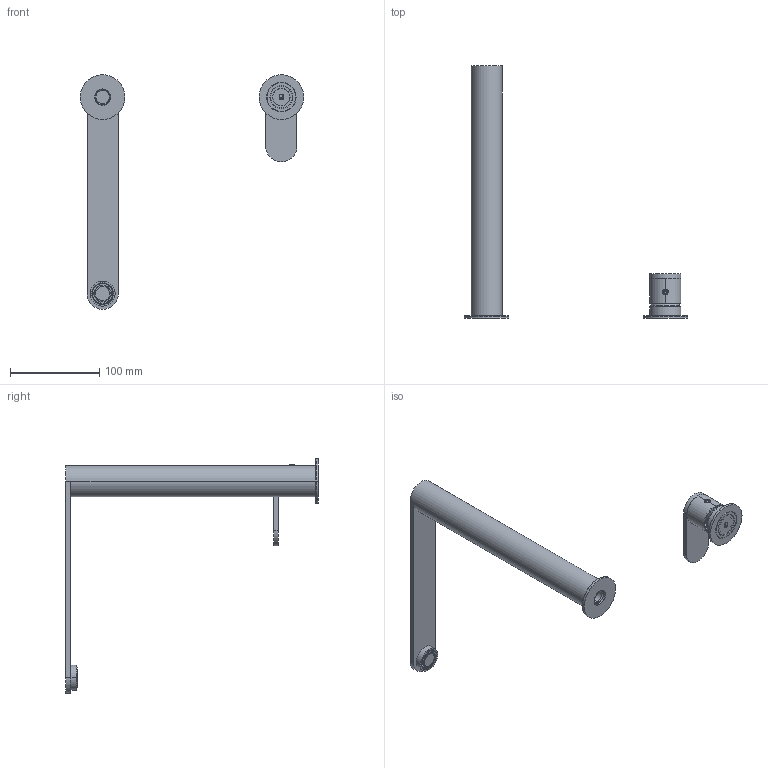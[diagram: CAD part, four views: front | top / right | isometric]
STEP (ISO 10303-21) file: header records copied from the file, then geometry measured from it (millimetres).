
FILE_DESCRIPTION((''),'2;1');
FILE_NAME('7905821_SW0001','2026-10-05T14:49:48',('carloff'),(''),'CREO PARAMETRIC BY PTC INC, 2025443','CREO PARAMETRIC BY PTC INC, 2025443','');
FILE_SCHEMA(('CONFIG_CONTROL_DESIGN'));
Length unit declared in the file: millimetre
Products named in the file (1): 7905821_SW0001
Bounding box: 250 x 283 x 262.5 mm (x, y, z)
Volume: 175636.7 mm3; surface area: 113170.1 mm2
Topology: 4 solids, 4 shells, 586 faces, 1423 edges, 821 vertices
Faces by surface type: cylinder 231, plane 159, sphere 62, torus 56, cone 52, bspline 26
Entity records: 21689 total; most frequent: CARTESIAN_POINT 8266, DIRECTION 2943, ORIENTED_EDGE 2722, EDGE_CURVE 1361, AXIS2_PLACEMENT_3D 1216, VERTEX_POINT 821, CIRCLE 656, EDGE_LOOP 642
